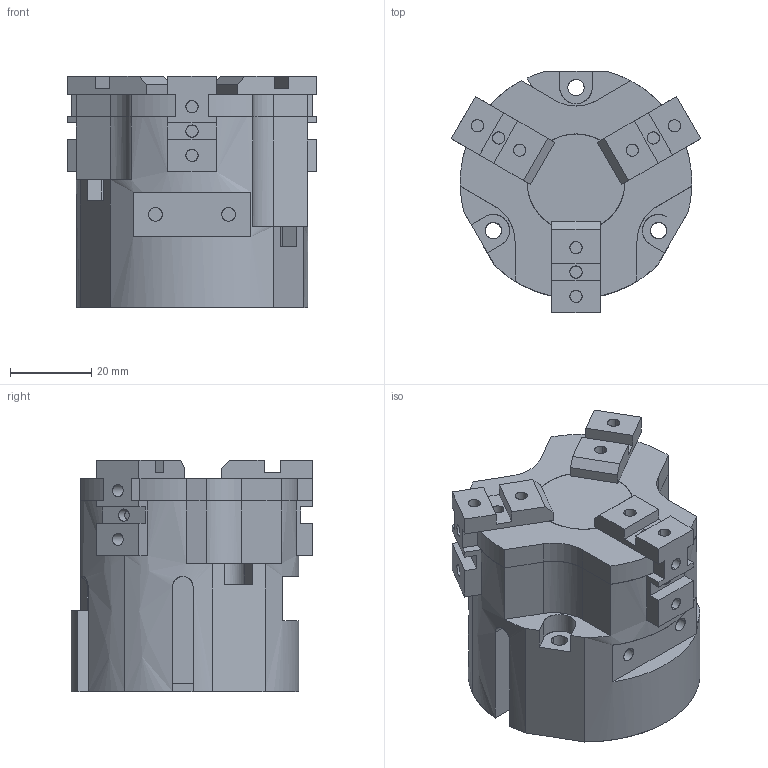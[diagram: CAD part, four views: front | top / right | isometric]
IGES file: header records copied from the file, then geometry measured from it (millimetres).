
Global section: file name: C:\Documents and Settings\Administrateur\Mes documents\OPE-60-3-S-OPEN.igs; native system: AutoCAD-16.0s (LMS Tech) (Microsoft Windows NT Version 5.1 (x86)); preprocessor: Autodesk IGES Translator Mechanical Desktop.R7.0.43.0 (Mar 18 2003) from Autodesk, Inc.; date: 20051205.105244; units: millimetre
Bounding box: 61.43 x 59.5 x 57 mm (x, y, z)
Surface area: 35130.4 mm2 (no closed solid volume)
Topology: 0 solids, 0 shells, 304 faces, 3194 edges, 3262 vertices
Faces by surface type: bspline 304
